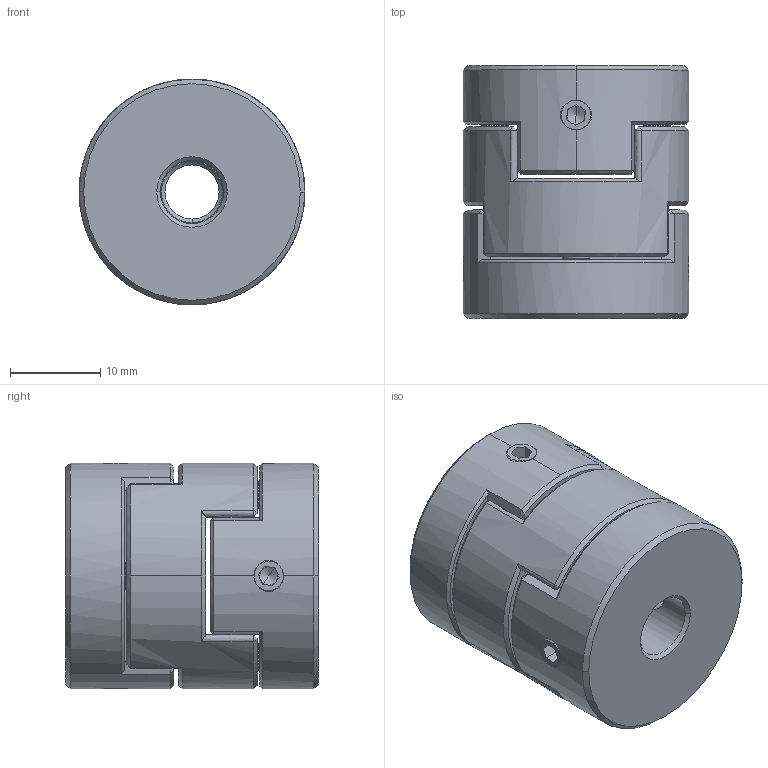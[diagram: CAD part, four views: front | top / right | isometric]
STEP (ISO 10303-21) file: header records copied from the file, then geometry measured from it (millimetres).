
FILE_DESCRIPTION (( 'STEP AP203' ), '1' );
FILE_NAME ('LZ-D-D25L28-6-7.STEP', '2021-10-30T02:10:21', ( '' ), ( '' ), 'SwSTEP 2.0', 'SolidWorks 2018', '' );
FILE_SCHEMA (( 'CONFIG_CONTROL_DESIGN' ));
Length unit declared in the file: millimetre
Products named in the file (1): LZ-D-D25L28-6-7
Bounding box: 25 x 28 x 25 mm (x, y, z)
Volume: 11916 mm3; surface area: 5546.2 mm2
Topology: 1 solids, 1 shells, 218 faces, 574 edges, 348 vertices
Faces by surface type: plane 88, cone 54, bspline 50, cylinder 26
Entity records: 9880 total; most frequent: CARTESIAN_POINT 4956, ORIENTED_EDGE 1132, DIRECTION 834, EDGE_CURVE 566, VERTEX_POINT 348, AXIS2_PLACEMENT_3D 303, EDGE_LOOP 234, LINE 228
